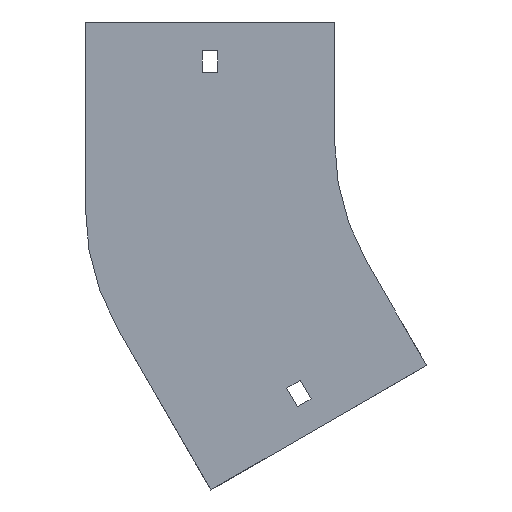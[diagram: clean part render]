
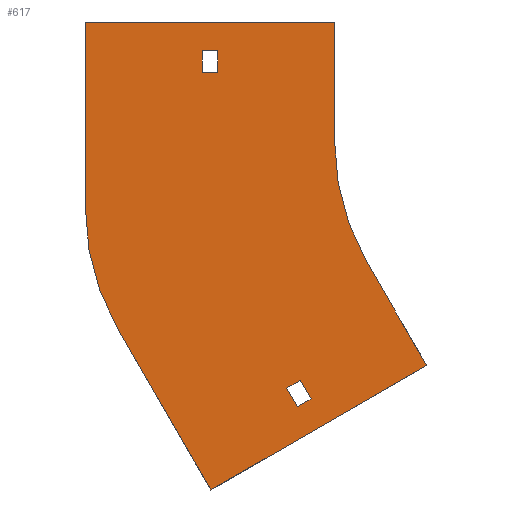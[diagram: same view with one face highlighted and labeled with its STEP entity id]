
A CAD part, front view. The second image highlights one B-rep face of the part: STEP entity #617.
In plain terms, the highlighted planar face has unit normal (0, -1, 0).
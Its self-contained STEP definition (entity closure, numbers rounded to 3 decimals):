
#16 = VECTOR ( 'NONE', #263, 1000. ) ;
#23 = DIRECTION ( 'NONE',  ( 1., 0., 0. ) ) ;
#28 = DIRECTION ( 'NONE',  ( -0.5, 0., 0.866 ) ) ;
#30 = VERTEX_POINT ( 'NONE', #524 ) ;
#40 = EDGE_LOOP ( 'NONE', ( #808, #1273, #799, #891 ) ) ;
#77 = EDGE_CURVE ( 'NONE', #929, #1342, #1124, .T. ) ;
#78 = VECTOR ( 'NONE', #872, 1000. ) ;
#102 = EDGE_CURVE ( 'NONE', #30, #918, #1115, .T. ) ;
#115 = DIRECTION ( 'NONE',  ( 0., 0., -1. ) ) ;
#117 = ORIENTED_EDGE ( 'NONE', *, *, #1230, .F. ) ;
#124 = ORIENTED_EDGE ( 'NONE', *, *, #753, .F. ) ;
#127 = EDGE_CURVE ( 'NONE', #918, #1337, #770, .T. ) ;
#136 = VECTOR ( 'NONE', #270, 1000. ) ;
#147 = VERTEX_POINT ( 'NONE', #1312 ) ;
#148 = LINE ( 'NONE', #485, #1133 ) ;
#178 = AXIS2_PLACEMENT_3D ( 'NONE', #685, #1006, #115 ) ;
#184 = VECTOR ( 'NONE', #1240, 1000. ) ;
#220 = CARTESIAN_POINT ( 'NONE',  ( -148.75, 0., 29. ) ) ;
#263 = DIRECTION ( 'NONE',  ( 0., 0., 1. ) ) ;
#270 = DIRECTION ( 'NONE',  ( 1., 0., 0. ) ) ;
#282 = VERTEX_POINT ( 'NONE', #330 ) ;
#286 = DIRECTION ( 'NONE',  ( -1., 0., 0. ) ) ;
#293 = CARTESIAN_POINT ( 'NONE',  ( -109.821, 0., -107.284 ) ) ;
#299 = LINE ( 'NONE', #311, #1141 ) ;
#305 = DIRECTION ( 'NONE',  ( 0., 0., 1. ) ) ;
#310 = LINE ( 'NONE', #845, #817 ) ;
#311 = CARTESIAN_POINT ( 'NONE',  ( -148.75, 0., 29. ) ) ;
#315 = ORIENTED_EDGE ( 'NONE', *, *, #1386, .F. ) ;
#330 = CARTESIAN_POINT ( 'NONE',  ( -119.95, 0., -102.74 ) ) ;
#373 = VECTOR ( 'NONE', #691, 1000. ) ;
#378 = ORIENTED_EDGE ( 'NONE', *, *, #414, .F. ) ;
#379 = VERTEX_POINT ( 'NONE', #1370 ) ;
#391 = LINE ( 'NONE', #826, #373 ) ;
#406 = LINE ( 'NONE', #1258, #136 ) ;
#414 = EDGE_CURVE ( 'NONE', #431, #282, #1158, .T. ) ;
#418 = VECTOR ( 'NONE', #606, 1000. ) ;
#431 = VERTEX_POINT ( 'NONE', #917 ) ;
#436 = CARTESIAN_POINT ( 'NONE',  ( -104., 0., -27.867 ) ) ;
#462 = VECTOR ( 'NONE', #28, 1000. ) ;
#479 = LINE ( 'NONE', #1250, #645 ) ;
#485 = CARTESIAN_POINT ( 'NONE',  ( -119.95, 0., -102.74 ) ) ;
#493 = EDGE_CURVE ( 'NONE', #651, #30, #1339, .T. ) ;
#499 = ORIENTED_EDGE ( 'NONE', *, *, #597, .F. ) ;
#504 = CARTESIAN_POINT ( 'NONE',  ( -119.95, 0., -102.74 ) ) ;
#513 = LINE ( 'NONE', #716, #418 ) ;
#524 = CARTESIAN_POINT ( 'NONE',  ( -204., 0., -27.867 ) ) ;
#531 = ORIENTED_EDGE ( 'NONE', *, *, #1401, .F. ) ;
#567 = ORIENTED_EDGE ( 'NONE', *, *, #127, .F. ) ;
#569 = AXIS2_PLACEMENT_3D ( 'NONE', #851, #757, #1296 ) ;
#578 = CARTESIAN_POINT ( 'NONE',  ( -100., 0., 50. ) ) ;
#597 = EDGE_CURVE ( 'NONE', #1337, #929, #1333, .T. ) ;
#606 = DIRECTION ( 'NONE',  ( 0.866, 0., 0.5 ) ) ;
#617 = ADVANCED_FACE ( 'NONE', ( #671, #666, #894 ), #987, .T. ) ;
#645 = VECTOR ( 'NONE', #286, 1000. ) ;
#651 = VERTEX_POINT ( 'NONE', #811 ) ;
#659 = CARTESIAN_POINT ( 'NONE',  ( -151.669, 0., -145.301 ) ) ;
#664 = LINE ( 'NONE', #1002, #837 ) ;
#666 = FACE_OUTER_BOUND ( 'NONE', #1009, .T. ) ;
#668 = VERTEX_POINT ( 'NONE', #293 ) ;
#671 = FACE_BOUND ( 'NONE', #40, .T. ) ;
#685 = CARTESIAN_POINT ( 'NONE',  ( 0., 0., 0. ) ) ;
#691 = DIRECTION ( 'NONE',  ( -0.866, 0., -0.5 ) ) ;
#702 = CARTESIAN_POINT ( 'NONE',  ( -204., 0., 50. ) ) ;
#710 = EDGE_LOOP ( 'NONE', ( #858, #1014, #378, #315 ) ) ;
#711 = LINE ( 'NONE', #1237, #16 ) ;
#716 = CARTESIAN_POINT ( 'NONE',  ( -115.45, 0., -110.534 ) ) ;
#725 = VECTOR ( 'NONE', #769, 1000. ) ;
#731 = AXIS2_PLACEMENT_3D ( 'NONE', #436, #1272, #305 ) ;
#753 = EDGE_CURVE ( 'NONE', #1096, #1391, #391, .T. ) ;
#757 = DIRECTION ( 'NONE',  ( 0., -1., 0. ) ) ;
#769 = DIRECTION ( 'NONE',  ( 0., 0., -1. ) ) ;
#770 = LINE ( 'NONE', #1099, #1101 ) ;
#784 = EDGE_CURVE ( 'NONE', #1406, #1119, #299, .T. ) ;
#793 = CARTESIAN_POINT ( 'NONE',  ( -61.603, 0., -93.301 ) ) ;
#799 = ORIENTED_EDGE ( 'NONE', *, *, #784, .T. ) ;
#808 = ORIENTED_EDGE ( 'NONE', *, *, #880, .T. ) ;
#811 = CARTESIAN_POINT ( 'NONE',  ( -190.603, 0., -77.867 ) ) ;
#817 = VECTOR ( 'NONE', #1277, 1000. ) ;
#826 = CARTESIAN_POINT ( 'NONE',  ( -61.603, 0., -93.301 ) ) ;
#837 = VECTOR ( 'NONE', #1195, 1000. ) ;
#845 = CARTESIAN_POINT ( 'NONE',  ( -114.321, 0., -99.49 ) ) ;
#851 = CARTESIAN_POINT ( 'NONE',  ( 0., 0., 0. ) ) ;
#858 = ORIENTED_EDGE ( 'NONE', *, *, #1210, .F. ) ;
#859 = EDGE_CURVE ( 'NONE', #1119, #379, #479, .T. ) ;
#872 = DIRECTION ( 'NONE',  ( 0., 0., 1. ) ) ;
#880 = EDGE_CURVE ( 'NONE', #379, #147, #711, .T. ) ;
#891 = ORIENTED_EDGE ( 'NONE', *, *, #859, .T. ) ;
#894 = FACE_BOUND ( 'NONE', #710, .T. ) ;
#909 = DIRECTION ( 'NONE',  ( 0.5, 0., -0.866 ) ) ;
#917 = CARTESIAN_POINT ( 'NONE',  ( -114.321, 0., -99.49 ) ) ;
#918 = VERTEX_POINT ( 'NONE', #702 ) ;
#929 = VERTEX_POINT ( 'NONE', #1023 ) ;
#980 = EDGE_CURVE ( 'NONE', #282, #1037, #148, .T. ) ;
#987 = PLANE ( 'NONE',  #178 ) ;
#1002 = CARTESIAN_POINT ( 'NONE',  ( -86.603, 0., -50. ) ) ;
#1006 = DIRECTION ( 'NONE',  ( 0., -1., 0. ) ) ;
#1009 = EDGE_LOOP ( 'NONE', ( #567, #1306, #1275, #117, #124, #531, #1144, #499 ) ) ;
#1014 = ORIENTED_EDGE ( 'NONE', *, *, #980, .F. ) ;
#1023 = CARTESIAN_POINT ( 'NONE',  ( -100., 0., 0. ) ) ;
#1037 = VERTEX_POINT ( 'NONE', #1128 ) ;
#1096 = VERTEX_POINT ( 'NONE', #793 ) ;
#1099 = CARTESIAN_POINT ( 'NONE',  ( -204., 0., 50. ) ) ;
#1101 = VECTOR ( 'NONE', #23, 1000. ) ;
#1115 = LINE ( 'NONE', #1211, #78 ) ;
#1118 = CARTESIAN_POINT ( 'NONE',  ( -151.669, 0., -145.301 ) ) ;
#1119 = VERTEX_POINT ( 'NONE', #220 ) ;
#1124 = CIRCLE ( 'NONE', #569, 100. ) ;
#1128 = CARTESIAN_POINT ( 'NONE',  ( -115.45, 0., -110.534 ) ) ;
#1133 = VECTOR ( 'NONE', #909, 1000. ) ;
#1141 = VECTOR ( 'NONE', #1284, 1000. ) ;
#1144 = ORIENTED_EDGE ( 'NONE', *, *, #77, .F. ) ;
#1158 = LINE ( 'NONE', #504, #184 ) ;
#1195 = DIRECTION ( 'NONE',  ( 0.5, 0., -0.866 ) ) ;
#1209 = CARTESIAN_POINT ( 'NONE',  ( -86.603, 0., -50. ) ) ;
#1210 = EDGE_CURVE ( 'NONE', #1037, #668, #513, .T. ) ;
#1211 = CARTESIAN_POINT ( 'NONE',  ( -204., 0., -27.867 ) ) ;
#1219 = CARTESIAN_POINT ( 'NONE',  ( -148.75, 0., 38. ) ) ;
#1230 = EDGE_CURVE ( 'NONE', #1391, #651, #1326, .T. ) ;
#1237 = CARTESIAN_POINT ( 'NONE',  ( -155.25, 0., 29. ) ) ;
#1240 = DIRECTION ( 'NONE',  ( -0.866, 0., -0.5 ) ) ;
#1250 = CARTESIAN_POINT ( 'NONE',  ( -155.25, 0., 29. ) ) ;
#1258 = CARTESIAN_POINT ( 'NONE',  ( -155.25, 0., 38. ) ) ;
#1272 = DIRECTION ( 'NONE',  ( 0., 1., 0. ) ) ;
#1273 = ORIENTED_EDGE ( 'NONE', *, *, #1348, .T. ) ;
#1275 = ORIENTED_EDGE ( 'NONE', *, *, #493, .F. ) ;
#1277 = DIRECTION ( 'NONE',  ( -0.5, 0., 0.866 ) ) ;
#1284 = DIRECTION ( 'NONE',  ( 0., 0., -1. ) ) ;
#1296 = DIRECTION ( 'NONE',  ( 0., 0., -1. ) ) ;
#1306 = ORIENTED_EDGE ( 'NONE', *, *, #102, .F. ) ;
#1312 = CARTESIAN_POINT ( 'NONE',  ( -155.25, 0., 38. ) ) ;
#1321 = CARTESIAN_POINT ( 'NONE',  ( -100., 0., 50. ) ) ;
#1326 = LINE ( 'NONE', #659, #462 ) ;
#1333 = LINE ( 'NONE', #578, #725 ) ;
#1337 = VERTEX_POINT ( 'NONE', #1321 ) ;
#1339 = CIRCLE ( 'NONE', #731, 100. ) ;
#1342 = VERTEX_POINT ( 'NONE', #1209 ) ;
#1348 = EDGE_CURVE ( 'NONE', #147, #1406, #406, .T. ) ;
#1370 = CARTESIAN_POINT ( 'NONE',  ( -155.25, 0., 29. ) ) ;
#1386 = EDGE_CURVE ( 'NONE', #668, #431, #310, .T. ) ;
#1391 = VERTEX_POINT ( 'NONE', #1118 ) ;
#1401 = EDGE_CURVE ( 'NONE', #1342, #1096, #664, .T. ) ;
#1406 = VERTEX_POINT ( 'NONE', #1219 ) ;
